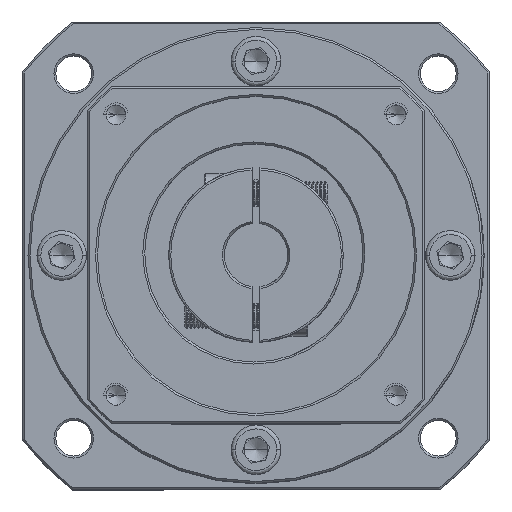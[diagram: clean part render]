
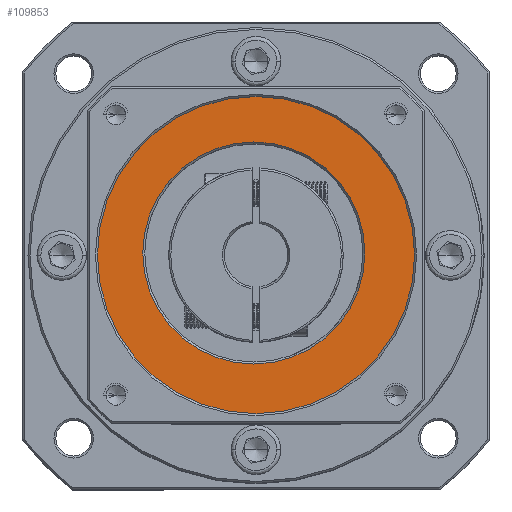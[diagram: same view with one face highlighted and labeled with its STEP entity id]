
A CAD part, top view. The second image highlights one B-rep face of the part: STEP entity #109853.
In plain terms, the highlighted planar face has unit normal (0, 0, 1).
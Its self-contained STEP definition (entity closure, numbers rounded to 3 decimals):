
#40 = VERTEX_POINT ( 'NONE', #3179 ) ;
#1819 = EDGE_CURVE ( 'NONE', #40, #76552, #84691, .T. ) ;
#2893 = PLANE ( 'NONE',  #107402 ) ;
#3179 = CARTESIAN_POINT ( 'NONE',  ( -116.035, 45.579, 1.149 ) ) ;
#3640 = CARTESIAN_POINT ( 'NONE',  ( -76.035, 45.579, 1.149 ) ) ;
#7089 = AXIS2_PLACEMENT_3D ( 'NONE', #71500, #19080, #80302 ) ;
#7994 = EDGE_LOOP ( 'NONE', ( #33838, #99624 ) ) ;
#12511 = DIRECTION ( 'NONE',  ( 1., 0., 0. ) ) ;
#13532 = CARTESIAN_POINT ( 'NONE',  ( -76.576, 46.113, 1.149 ) ) ;
#18072 = ORIENTED_EDGE ( 'NONE', *, *, #1819, .T. ) ;
#19080 = DIRECTION ( 'NONE',  ( 0., 0., 1. ) ) ;
#21812 = CARTESIAN_POINT ( 'NONE',  ( -76.576, 46.113, 1.149 ) ) ;
#22358 = DIRECTION ( 'NONE',  ( 1., 0., 0. ) ) ;
#25278 = AXIS2_PLACEMENT_3D ( 'NONE', #48340, #109580, #57158 ) ;
#28286 = CIRCLE ( 'NONE', #112922, 28. ) ;
#28486 = FACE_OUTER_BOUND ( 'NONE', #60202, .T. ) ;
#30546 = DIRECTION ( 'NONE',  ( 1., 0., 0. ) ) ;
#33838 = ORIENTED_EDGE ( 'NONE', *, *, #35578, .T. ) ;
#35578 = EDGE_CURVE ( 'NONE', #112002, #70982, #28286, .T. ) ;
#46313 = FACE_BOUND ( 'NONE', #7994, .T. ) ;
#48340 = CARTESIAN_POINT ( 'NONE',  ( -76.035, 45.579, 1.149 ) ) ;
#49485 = CARTESIAN_POINT ( 'NONE',  ( -48.576, 46.113, 1.149 ) ) ;
#57158 = DIRECTION ( 'NONE',  ( 1., 0., 0. ) ) ;
#59206 = CARTESIAN_POINT ( 'NONE',  ( -36.035, 45.579, 1.149 ) ) ;
#60202 = EDGE_LOOP ( 'NONE', ( #85376, #18072 ) ) ;
#64966 = DIRECTION ( 'NONE',  ( 0., 0., 1. ) ) ;
#70982 = VERTEX_POINT ( 'NONE', #75801 ) ;
#71500 = CARTESIAN_POINT ( 'NONE',  ( -76.035, 45.579, 1.149 ) ) ;
#74789 = DIRECTION ( 'NONE',  ( 0., 0., -1. ) ) ;
#75801 = CARTESIAN_POINT ( 'NONE',  ( -104.576, 46.113, 1.149 ) ) ;
#76552 = VERTEX_POINT ( 'NONE', #59206 ) ;
#80302 = DIRECTION ( 'NONE',  ( 1., 0., 0. ) ) ;
#81849 = AXIS2_PLACEMENT_3D ( 'NONE', #21812, #83042, #30546 ) ;
#83042 = DIRECTION ( 'NONE',  ( 0., 0., -1. ) ) ;
#84691 = CIRCLE ( 'NONE', #7089, 40. ) ;
#85376 = ORIENTED_EDGE ( 'NONE', *, *, #91875, .T. ) ;
#86002 = EDGE_CURVE ( 'NONE', #70982, #112002, #110801, .T. ) ;
#91875 = EDGE_CURVE ( 'NONE', #76552, #40, #95040, .T. ) ;
#95040 = CIRCLE ( 'NONE', #25278, 40. ) ;
#99624 = ORIENTED_EDGE ( 'NONE', *, *, #86002, .T. ) ;
#107402 = AXIS2_PLACEMENT_3D ( 'NONE', #3640, #64966, #12511 ) ;
#109580 = DIRECTION ( 'NONE',  ( 0., 0., 1. ) ) ;
#109853 = ADVANCED_FACE ( 'NONE', ( #28486, #46313 ), #2893, .T. ) ;
#110801 = CIRCLE ( 'NONE', #81849, 28. ) ;
#112002 = VERTEX_POINT ( 'NONE', #49485 ) ;
#112922 = AXIS2_PLACEMENT_3D ( 'NONE', #13532, #74789, #22358 ) ;
